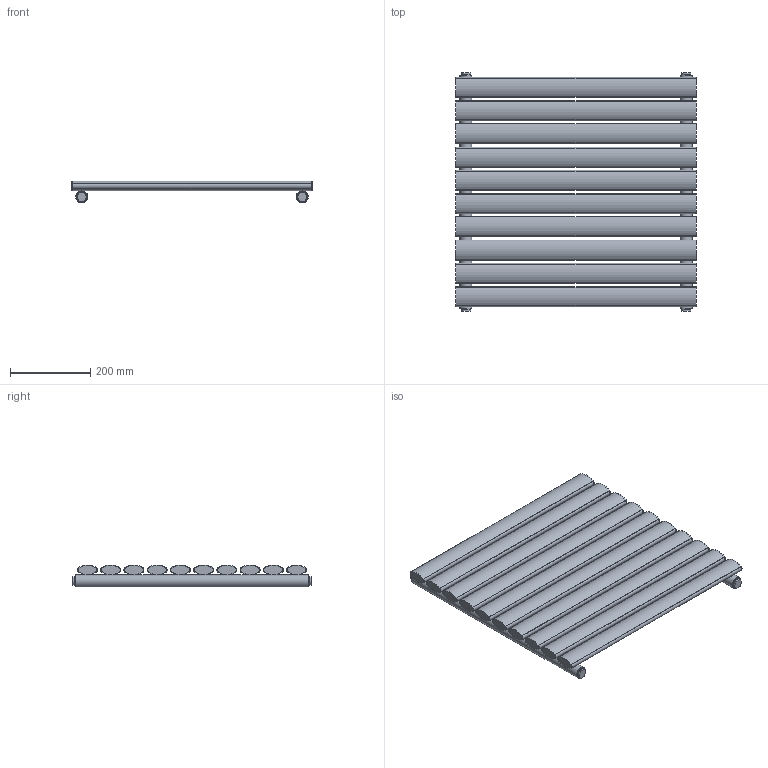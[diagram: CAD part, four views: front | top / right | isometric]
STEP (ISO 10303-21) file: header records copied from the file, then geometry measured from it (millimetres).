
FILE_DESCRIPTION(/* description */ (''),/* implementation_level */ '2;1');
FILE_NAME(/* name */ 'C:\Grzejniki\13DLUXRAD\pokojowe\FORTUNA\FORTUNA POJEDYNCZA 600x584.iam.stp',/* time_stamp */ '2016-06-28T17:32:28+02:00',/* author */ ('m.szydziak'),/* organization */ (''),/* preprocessor_version */ 'ST-DEVELOPER v16.5',/* originating_system */ 'Autodesk Inventor 2017',/* authorisation */ '');
FILE_SCHEMA (('AUTOMOTIVE_DESIGN { 1 0 10303 214 3 1 1 }'));
Length unit declared in the file: millimetre
Products named in the file (5): FORTUNA POJEDYNCZA 600x584; %%c30x1,5x584; 50x25x1,2x600; zaślepka fi30 G0,5inch; korek
Assembly tree (20 placements, depth 2):
  FORTUNA POJEDYNCZA 600x584
    %%c30x1,5x584  x2
    50x25x1,2x600  x10
    zaślepka fi30 G0,5inch  x4
    korek  x4
Bounding box: 600 x 596 x 54.86 mm (x, y, z)
Volume: 1027738.2 mm3; surface area: 1650944.9 mm2
Topology: 20 solids, 20 shells, 244 faces, 636 edges, 452 vertices
Faces by surface type: cylinder 136, plane 108
Full cylindrical faces by diameter (mm): 5 x20, 5.8 x20, 18.631 x4, 24 x4, 27 x6, 30 x2
Entity records: 2437 total; most frequent: CARTESIAN_POINT 1078, DIRECTION 250, ORIENTED_EDGE 210, AXIS2_PLACEMENT_3D 109, EDGE_CURVE 105, EDGE_LOOP 92, VERTEX_POINT 85, FACE_OUTER_BOUND 47
